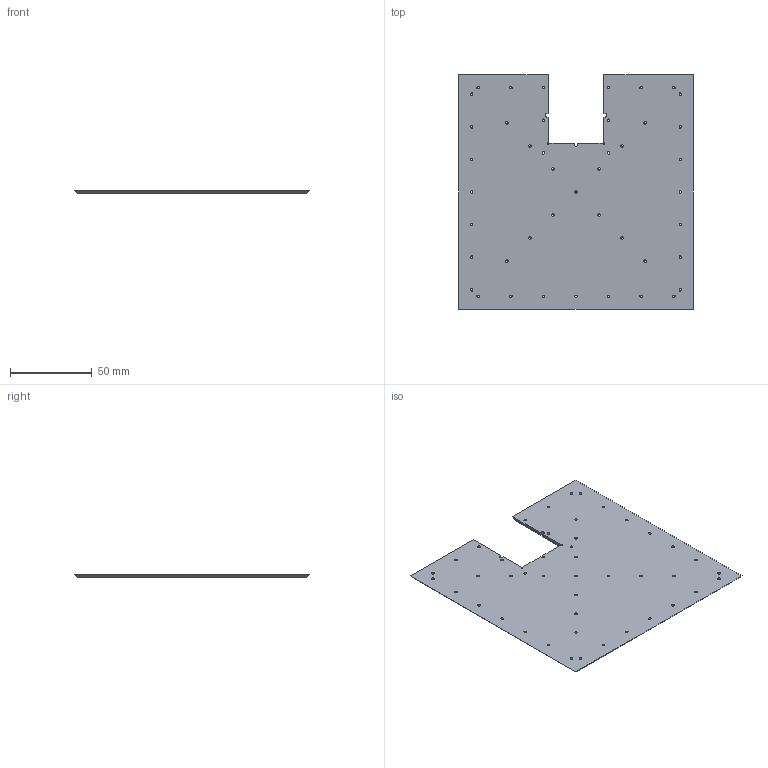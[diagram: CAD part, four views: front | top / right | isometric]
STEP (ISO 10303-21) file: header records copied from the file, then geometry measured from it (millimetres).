
FILE_DESCRIPTION (( 'STEP AP214' ), '1' );
FILE_NAME ('SC37.STEP', '2016-02-27T09:31:30', ( '' ), ( '' ), 'SwSTEP 2.0', 'SolidWorks 2012', '' );
FILE_SCHEMA (( 'AUTOMOTIVE_DESIGN' ));
Length unit declared in the file: millimetre
Products named in the file (1): SC37
Bounding box: 144 x 144 x 2 mm (x, y, z)
Volume: 37313.5 mm3; surface area: 39526.8 mm2
Topology: 1 solids, 1 shells, 114 faces, 336 edges, 224 vertices
Faces by surface type: cylinder 95, plane 19
Entity records: 4120 total; most frequent: DIRECTION 756, CARTESIAN_POINT 675, ORIENTED_EDGE 672, EDGE_CURVE 336, AXIS2_PLACEMENT_3D 305, VERTEX_POINT 224, EDGE_LOOP 202, CIRCLE 190
